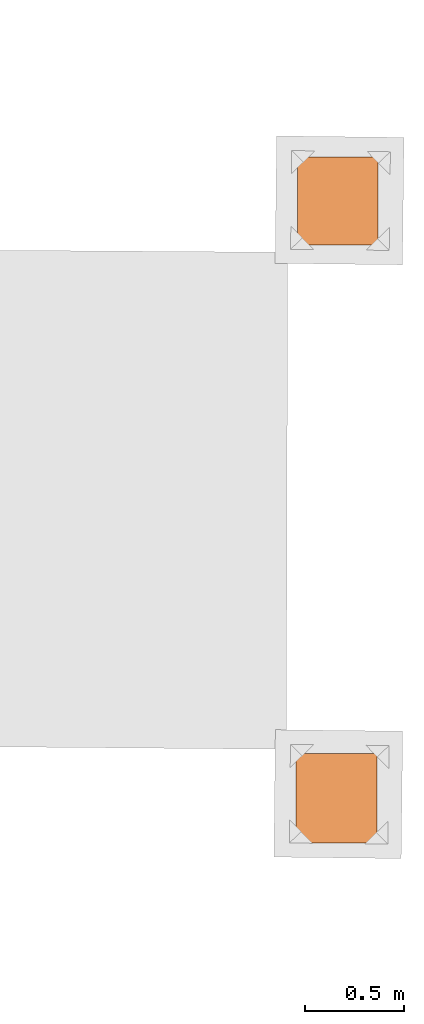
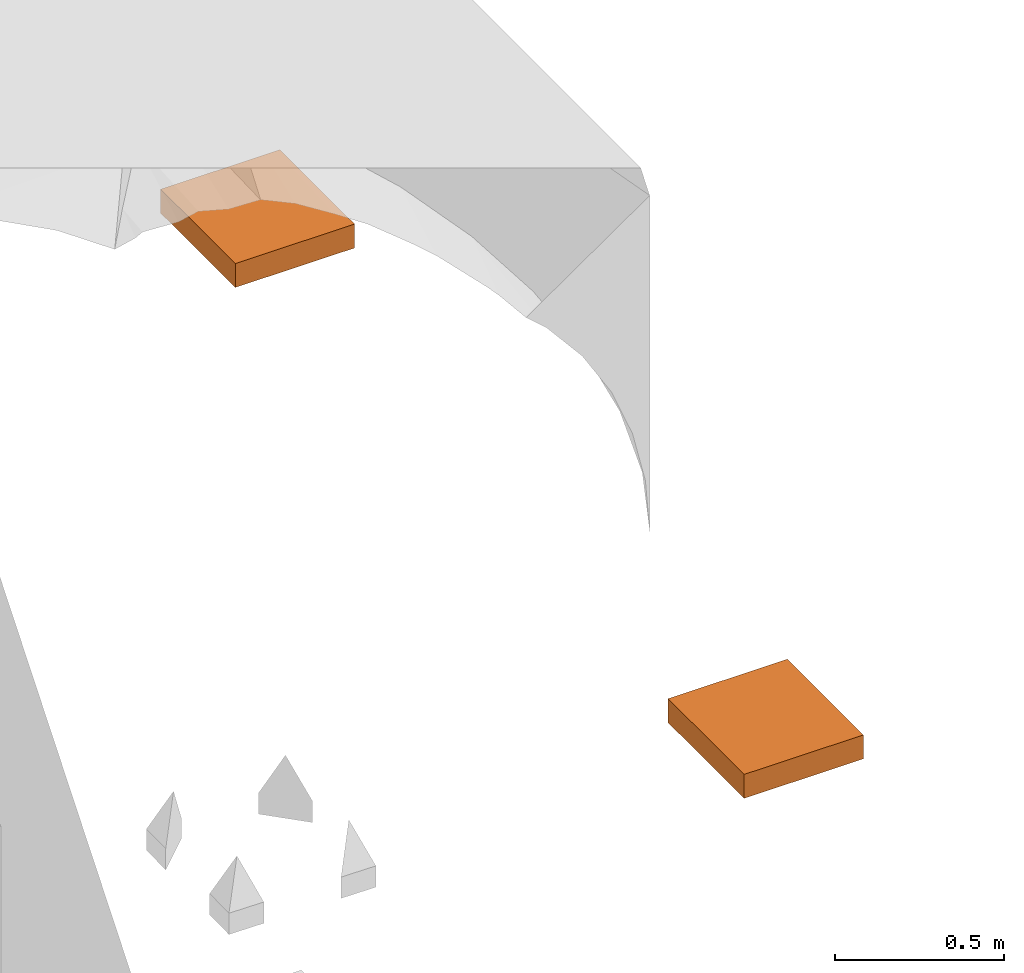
# One storey, part 158 of 158: 2 proxies.
"""IFC2X3 building model written with IfcOpenShell, lengths in metres."""

from ifc_helpers import new_model, entity, si_unit, converted_unit, derived_unit, money_unit, direction, frame, origin_with_axes, place, context, subcontext, project, spatial, faceted_brep, material, type_object, element, save


model = new_model("IFC2X3")

# Units and contexts
model_context = context("Model", 3, precision=1e-05, world=origin_with_axes(), true_north=direction((0.0, 1.0)))
body_context = subcontext(model_context, "Body", "Model", "MODEL_VIEW")
ifc_project = project(units=[si_unit("LENGTHUNIT", "METRE"), si_unit("AREAUNIT", "SQUARE_METRE"), si_unit("VOLUMEUNIT", "CUBIC_METRE"), converted_unit("PLANEANGLEUNIT", "DEGREE", entity("IfcPlaneAngleMeasure", 0.0174532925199), si_unit("PLANEANGLEUNIT", "RADIAN"), dimensions=[0, 0, 0, 0, 0, 0, 0]), money_unit("EUR"), converted_unit("TIMEUNIT", "Year", entity("IfcTimeMeasure", 31556926.0), si_unit("TIMEUNIT", "SECOND"), dimensions=[0, 0, 1, 0, 0, 0, 0]), si_unit("MASSUNIT", "GRAM", prefix="KILO"), si_unit("THERMODYNAMICTEMPERATUREUNIT", "DEGREE_CELSIUS"), si_unit("LUMINOUSINTENSITYUNIT", "LUMEN"), si_unit("ENERGYUNIT", "JOULE", prefix="MEGA"), derived_unit("THERMALCONDUCTANCEUNIT", [(si_unit("POWERUNIT", "WATT"), 1), (si_unit("LENGTHUNIT", "METRE"), -1), (si_unit("THERMODYNAMICTEMPERATUREUNIT", "KELVIN"), -1)]), derived_unit("SPECIFICHEATCAPACITYUNIT", [(si_unit("ENERGYUNIT", "JOULE"), 1), (si_unit("MASSUNIT", "GRAM", prefix="KILO"), -1), (si_unit("THERMODYNAMICTEMPERATUREUNIT", "KELVIN"), -1)]), derived_unit("MASSDENSITYUNIT", [(si_unit("MASSUNIT", "GRAM", prefix="KILO"), 1), (si_unit("VOLUMEUNIT", "CUBIC_METRE"), -1)])], contexts=[model_context])

# Site, building, storey
site_placement = place(None, origin_with_axes())
site = spatial("IfcSite", under=ifc_project, at=site_placement, Name="Gelände", CompositionType="ELEMENT")
building_placement = place(site_placement, origin_with_axes())
building = spatial("IfcBuilding", under=site, at=building_placement, Name="Gebäude", CompositionType="ELEMENT")
storey_placement = place(building_placement, origin_with_axes())
storey = spatial("IfcBuildingStorey", under=building, at=storey_placement, Name="ERDGESCHOSS", CompositionType="ELEMENT", Elevation=0.0)

# Proxies
ifc_material = material(Name="01_ALLGEMEIN - BAUTEIL")
building_element_proxy_type = type_object("IfcBuildingElementProxyType", Name="01_ALLGEMEIN - BAUTEIL", PredefinedType="NOTDEFINED")
proxy_1_placement = place(storey_placement, frame((34.5760804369, 19.3447230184, 0.772616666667), z_axis=(0.0, 0.0, 1.0), x_axis=(1.0, 0.0, 0.0)))
element("IfcBuildingElementProxy", 1, at=proxy_1_placement, inside=storey, type_object=building_element_proxy_type, material=ifc_material, Name="Morph-293", context=body_context, shape_type="Brep", body=[
    faceted_brep([(-0.408101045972, 0.422956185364, 1.0), (-0.408101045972, -0.0209059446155, 1.0), (0.0, -0.0209059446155, 1.0), (0.0, 0.422956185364, 1.0), (-0.408101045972, 0.422956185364, 0.913424), (-0.408101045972, -0.0209059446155, 0.913424), (0.0, -0.0209059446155, 0.913424), (0.0, 0.422956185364, 0.913424)], [[[0, 1, 2, 3]], [[4, 5, 1, 0]], [[1, 5, 6, 2]], [[2, 6, 7, 3]], [[4, 0, 3, 7]], [[5, 4, 7, 6]]]),
])
proxy_2_placement = place(storey_placement, frame((34.5697563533, 16.2952442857, 0.762082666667), z_axis=(0.0, 0.0, 1.0), x_axis=(1.0, 0.0, 0.0)))
element("IfcBuildingElementProxy", 2, at=proxy_2_placement, inside=storey, type_object=building_element_proxy_type, material=ifc_material, Name="Morph-293", context=body_context, shape_type="Brep", body=[
    faceted_brep([(-0.408101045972, 0.451899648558, 1.0), (-0.408101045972, 0.0, 1.0), (0.0, 0.0, 1.0), (0.0, 0.451899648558, 1.0), (-0.408101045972, 0.451899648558, 0.913424), (-0.408101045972, 0.0, 0.913424), (0.0, 0.0, 0.913424), (0.0, 0.451899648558, 0.913424)], [[[0, 1, 2, 3]], [[4, 5, 1, 0]], [[1, 5, 6, 2]], [[2, 6, 7, 3]], [[4, 0, 3, 7]], [[5, 4, 7, 6]]]),
])

save(model, "model.ifc")
